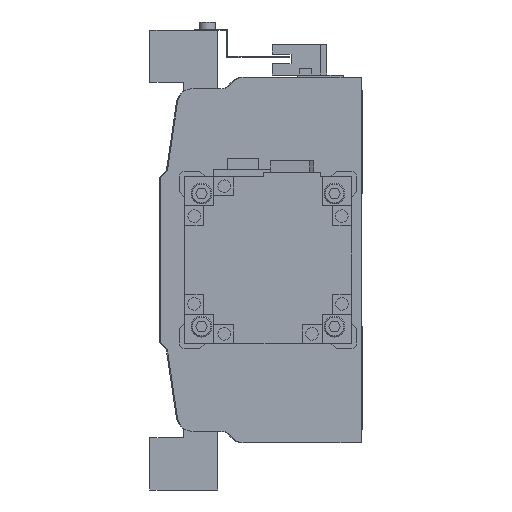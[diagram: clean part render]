
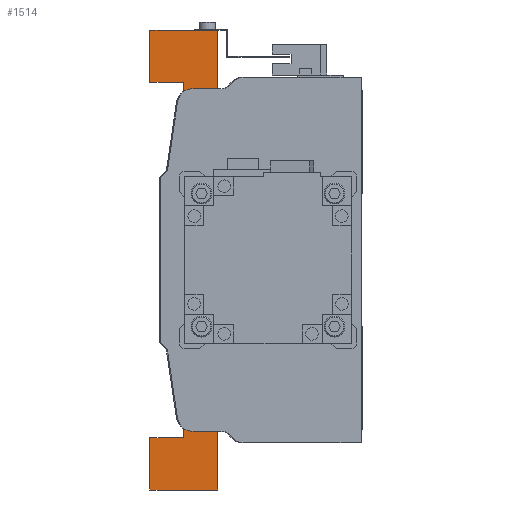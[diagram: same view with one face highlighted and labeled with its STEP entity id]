
A CAD part, left-side view. The second image highlights one B-rep face of the part: STEP entity #1514.
In plain terms, the highlighted planar face has unit normal (-1, 0, 0).
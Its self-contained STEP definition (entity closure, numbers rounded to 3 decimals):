
#1514 = ADVANCED_FACE( '', ( #3182 ), #3183, .F. );
#3182 = FACE_OUTER_BOUND( '', #4983, .T. );
#3183 = PLANE( '', #4984 );
#4983 = EDGE_LOOP( '', ( #8975, #8976, #8977, #8978, #8979, #8980, #8981, #8982, #8983, #8984, #8985, #8986, #8987, #8988, #8989, #8990 ) );
#4984 = AXIS2_PLACEMENT_3D( '', #8991, #8992, #8993 );
#8975 = ORIENTED_EDGE( '', *, *, #10760, .T. );
#8976 = ORIENTED_EDGE( '', *, *, #11773, .T. );
#8977 = ORIENTED_EDGE( '', *, *, #11446, .F. );
#8978 = ORIENTED_EDGE( '', *, *, #11535, .F. );
#8979 = ORIENTED_EDGE( '', *, *, #11899, .F. );
#8980 = ORIENTED_EDGE( '', *, *, #11591, .F. );
#8981 = ORIENTED_EDGE( '', *, *, #10307, .F. );
#8982 = ORIENTED_EDGE( '', *, *, #10934, .F. );
#8983 = ORIENTED_EDGE( '', *, *, #11399, .F. );
#8984 = ORIENTED_EDGE( '', *, *, #11686, .F. );
#8985 = ORIENTED_EDGE( '', *, *, #11850, .F. );
#8986 = ORIENTED_EDGE( '', *, *, #11334, .F. );
#8987 = ORIENTED_EDGE( '', *, *, #11900, .F. );
#8988 = ORIENTED_EDGE( '', *, *, #11745, .F. );
#8989 = ORIENTED_EDGE( '', *, *, #10683, .F. );
#8990 = ORIENTED_EDGE( '', *, *, #10987, .T. );
#8991 = CARTESIAN_POINT( '', ( -100., -56.5, 0. ) );
#8992 = DIRECTION( '', ( 1., 0., 0. ) );
#8993 = DIRECTION( '', ( 0., 0., -1. ) );
#10307 = EDGE_CURVE( '', #12213, #12214, #12215, .T. );
#10683 = EDGE_CURVE( '', #12871, #12873, #12874, .T. );
#10760 = EDGE_CURVE( '', #13001, #13002, #13003, .T. );
#10934 = EDGE_CURVE( '', #13288, #12213, #13289, .T. );
#10987 = EDGE_CURVE( '', #12871, #13001, #13369, .T. );
#11334 = EDGE_CURVE( '', #13915, #13916, #13917, .T. );
#11399 = EDGE_CURVE( '', #14007, #13288, #14008, .T. );
#11446 = EDGE_CURVE( '', #14077, #13610, #14078, .T. );
#11535 = EDGE_CURVE( '', #14210, #14077, #14211, .T. );
#11591 = EDGE_CURVE( '', #12214, #14288, #14289, .T. );
#11686 = EDGE_CURVE( '', #14417, #14007, #14418, .T. );
#11745 = EDGE_CURVE( '', #12873, #14490, #14491, .T. );
#11773 = EDGE_CURVE( '', #13002, #13610, #14526, .T. );
#11850 = EDGE_CURVE( '', #13916, #14417, #14624, .T. );
#11899 = EDGE_CURVE( '', #14288, #14210, #14683, .T. );
#11900 = EDGE_CURVE( '', #14490, #13915, #14684, .T. );
#12213 = VERTEX_POINT( '', #15040 );
#12214 = VERTEX_POINT( '', #15041 );
#12215 = LINE( '', #15042, #15043 );
#12871 = VERTEX_POINT( '', #15924 );
#12873 = VERTEX_POINT( '', #15927 );
#12874 = LINE( '', #15928, #15929 );
#13001 = VERTEX_POINT( '', #16108 );
#13002 = VERTEX_POINT( '', #16109 );
#13003 = LINE( '', #16110, #16111 );
#13288 = VERTEX_POINT( '', #16516 );
#13289 = LINE( '', #16517, #16518 );
#13369 = CIRCLE( '', #16624, 31. );
#13610 = VERTEX_POINT( '', #16980 );
#13915 = VERTEX_POINT( '', #17420 );
#13916 = VERTEX_POINT( '', #17421 );
#13917 = LINE( '', #17422, #17423 );
#14007 = VERTEX_POINT( '', #17550 );
#14008 = LINE( '', #17551, #17552 );
#14077 = VERTEX_POINT( '', #17643 );
#14078 = LINE( '', #17644, #17645 );
#14210 = VERTEX_POINT( '', #17824 );
#14211 = LINE( '', #17825, #17826 );
#14288 = VERTEX_POINT( '', #17955 );
#14289 = LINE( '', #17956, #17957 );
#14417 = VERTEX_POINT( '', #18150 );
#14418 = LINE( '', #18151, #18152 );
#14490 = VERTEX_POINT( '', #18256 );
#14491 = LINE( '', #18257, #18258 );
#14526 = CIRCLE( '', #18306, 31. );
#14624 = LINE( '', #18438, #18439 );
#14683 = LINE( '', #18518, #18519 );
#14684 = LINE( '', #18520, #18521 );
#15040 = CARTESIAN_POINT( '', ( -100., 0., 85. ) );
#15041 = CARTESIAN_POINT( '', ( -100., 0., 110. ) );
#15042 = CARTESIAN_POINT( '', ( -100., 0., 85. ) );
#15043 = VECTOR( '', #18904, 1000. );
#15924 = CARTESIAN_POINT( '', ( -100., -77.5, -22.803 ) );
#15927 = CARTESIAN_POINT( '', ( -100., -77.5, -34. ) );
#15928 = CARTESIAN_POINT( '', ( -100., -77.5, -13.242 ) );
#15929 = VECTOR( '', #19353, 1000. );
#16108 = CARTESIAN_POINT( '', ( -100., -32.5, -19.622 ) );
#16109 = CARTESIAN_POINT( '', ( -100., -32.5, 19.622 ) );
#16110 = CARTESIAN_POINT( '', ( -100., -32.5, -19.622 ) );
#16111 = VECTOR( '', #19427, 1000. );
#16516 = CARTESIAN_POINT( '', ( -100., -16., 85. ) );
#16517 = CARTESIAN_POINT( '', ( -100., -16., 85. ) );
#16518 = VECTOR( '', #19635, 1000. );
#16624 = AXIS2_PLACEMENT_3D( '', #19692, #19693, #19694 );
#16980 = CARTESIAN_POINT( '', ( -100., -77.5, 22.803 ) );
#17420 = CARTESIAN_POINT( '', ( -100., -32.5, -110. ) );
#17421 = CARTESIAN_POINT( '', ( -100., 0., -110. ) );
#17422 = CARTESIAN_POINT( '', ( -100., -32.5, -110. ) );
#17423 = VECTOR( '', #20053, 1000. );
#17550 = CARTESIAN_POINT( '', ( -100., -16., -85. ) );
#17551 = CARTESIAN_POINT( '', ( -100., -16., -85. ) );
#17552 = VECTOR( '', #20109, 1000. );
#17643 = CARTESIAN_POINT( '', ( -100., -77.5, 34. ) );
#17644 = CARTESIAN_POINT( '', ( -100., -77.5, 34. ) );
#17645 = VECTOR( '', #20168, 1000. );
#17824 = CARTESIAN_POINT( '', ( -100., -32.5, 34. ) );
#17825 = CARTESIAN_POINT( '', ( -100., -32.5, 34. ) );
#17826 = VECTOR( '', #20270, 1000. );
#17955 = CARTESIAN_POINT( '', ( -100., -32.5, 110. ) );
#17956 = CARTESIAN_POINT( '', ( -100., 0., 110. ) );
#17957 = VECTOR( '', #20320, 1000. );
#18150 = CARTESIAN_POINT( '', ( -100., 0., -85. ) );
#18151 = CARTESIAN_POINT( '', ( -100., 0., -85. ) );
#18152 = VECTOR( '', #20425, 1000. );
#18256 = CARTESIAN_POINT( '', ( -100., -32.5, -34. ) );
#18257 = CARTESIAN_POINT( '', ( -100., -77.5, -34. ) );
#18258 = VECTOR( '', #20476, 1000. );
#18306 = AXIS2_PLACEMENT_3D( '', #20496, #20497, #20498 );
#18438 = CARTESIAN_POINT( '', ( -100., 0., -110. ) );
#18439 = VECTOR( '', #20566, 1000. );
#18518 = CARTESIAN_POINT( '', ( -100., -32.5, 110. ) );
#18519 = VECTOR( '', #20602, 1000. );
#18520 = CARTESIAN_POINT( '', ( -100., -32.5, -34. ) );
#18521 = VECTOR( '', #20603, 1000. );
#18904 = DIRECTION( '', ( 0., 0., 1. ) );
#19353 = DIRECTION( '', ( 0., 0., -1. ) );
#19427 = DIRECTION( '', ( 0., 0., 1. ) );
#19635 = DIRECTION( '', ( 0., 1., 0. ) );
#19692 = CARTESIAN_POINT( '', ( -100., -56.5, 0. ) );
#19693 = DIRECTION( '', ( 1., 0., 0. ) );
#19694 = DIRECTION( '', ( 0., 0., -1. ) );
#20053 = DIRECTION( '', ( 0., 1., 0. ) );
#20109 = DIRECTION( '', ( 0., 0., 1. ) );
#20168 = DIRECTION( '', ( 0., 0., -1. ) );
#20270 = DIRECTION( '', ( 0., -1., 0. ) );
#20320 = DIRECTION( '', ( 0., -1., 0. ) );
#20425 = DIRECTION( '', ( 0., -1., 0. ) );
#20476 = DIRECTION( '', ( 0., 1., 0. ) );
#20496 = CARTESIAN_POINT( '', ( -100., -56.5, 0. ) );
#20497 = DIRECTION( '', ( 1., 0., 0. ) );
#20498 = DIRECTION( '', ( 0., 0., -1. ) );
#20566 = DIRECTION( '', ( 0., 0., 1. ) );
#20602 = DIRECTION( '', ( 0., 0., -1. ) );
#20603 = DIRECTION( '', ( 0., 0., -1. ) );
